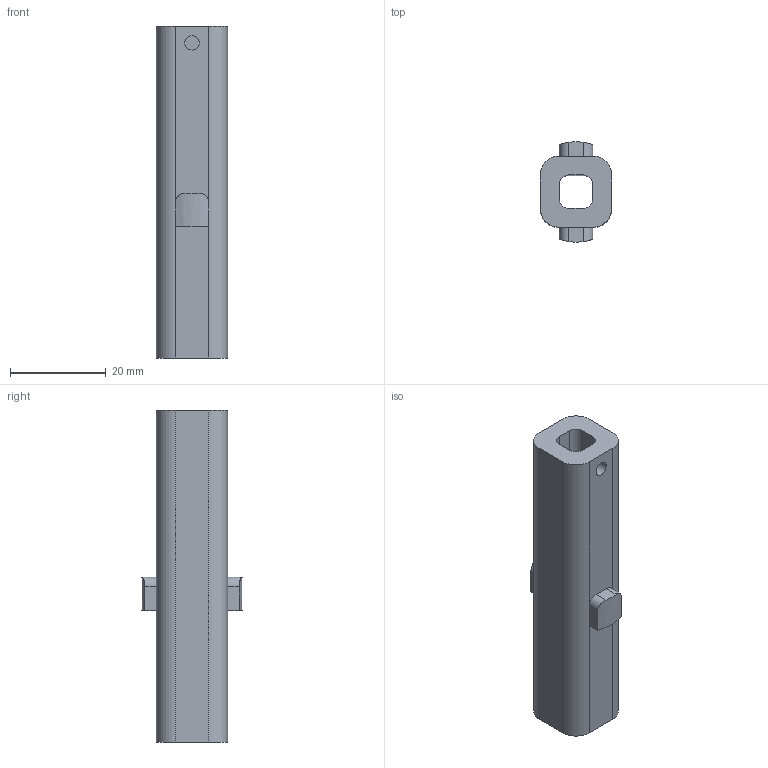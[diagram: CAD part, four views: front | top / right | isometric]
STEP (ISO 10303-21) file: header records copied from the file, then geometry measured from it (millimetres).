
FILE_DESCRIPTION(/* description */ (''),/* implementation_level */ '2;1');
FILE_NAME(/* name */ 'LAST_Grip 06.stp',/* time_stamp */ '2025-11-19T21:10:55+09:00',/* author */ (''),/* organization */ (''),/* preprocessor_version */ 'ST-DEVELOPER v11',/* originating_system */ 'SIEMENS PLM Software NX 7.5',/* authorisation */ '');
FILE_SCHEMA (('CONFIG_CONTROL_DESIGN'));
Length unit declared in the file: millimetre
Products named in the file (1): gyun8741ynvn
Bounding box: 14.9 x 21 x 69.5 mm (x, y, z)
Volume: 11398 mm3; surface area: 6105.2 mm2
Topology: 1 solids, 1 shells, 40 faces, 102 edges, 65 vertices
Faces by surface type: plane 23, cylinder 17
Full cylindrical faces by diameter (mm): 3 x3
Entity records: 1322 total; most frequent: CARTESIAN_POINT 262, DIRECTION 208, ORIENTED_EDGE 194, EDGE_CURVE 97, AXIS2_PLACEMENT_3D 73, VERTEX_POINT 63, LINE 62, VECTOR 62
